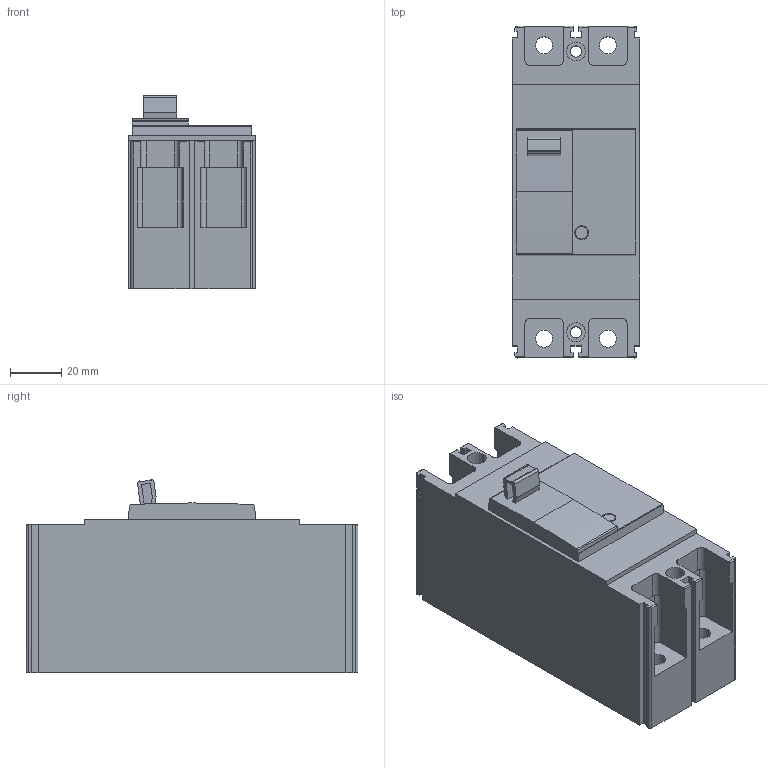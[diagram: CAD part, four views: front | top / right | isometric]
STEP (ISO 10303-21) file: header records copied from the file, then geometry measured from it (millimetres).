
FILE_DESCRIPTION (( 'STEP AP203' ), '1' );
FILE_NAME ('New N Type 2P.STEP', '2018-01-04T01:14:40', ( '' ), ( '' ), 'SwSTEP 2.0', 'SolidWorks 2015', '' );
FILE_SCHEMA (( 'CONFIG_CONTROL_DESIGN' ));
Length unit declared in the file: millimetre
Products named in the file (1): New N Type 2P
Bounding box: 50 x 130 x 75.76 mm (x, y, z)
Volume: 351723.1 mm3; surface area: 45841.6 mm2
Topology: 1 solids, 1 shells, 169 faces, 489 edges, 328 vertices
Faces by surface type: plane 105, cylinder 64
Entity records: 5720 total; most frequent: CARTESIAN_POINT 1031, ORIENTED_EDGE 978, DIRECTION 957, EDGE_CURVE 489, LINE 353, VECTOR 353, VERTEX_POINT 328, AXIS2_PLACEMENT_3D 302
